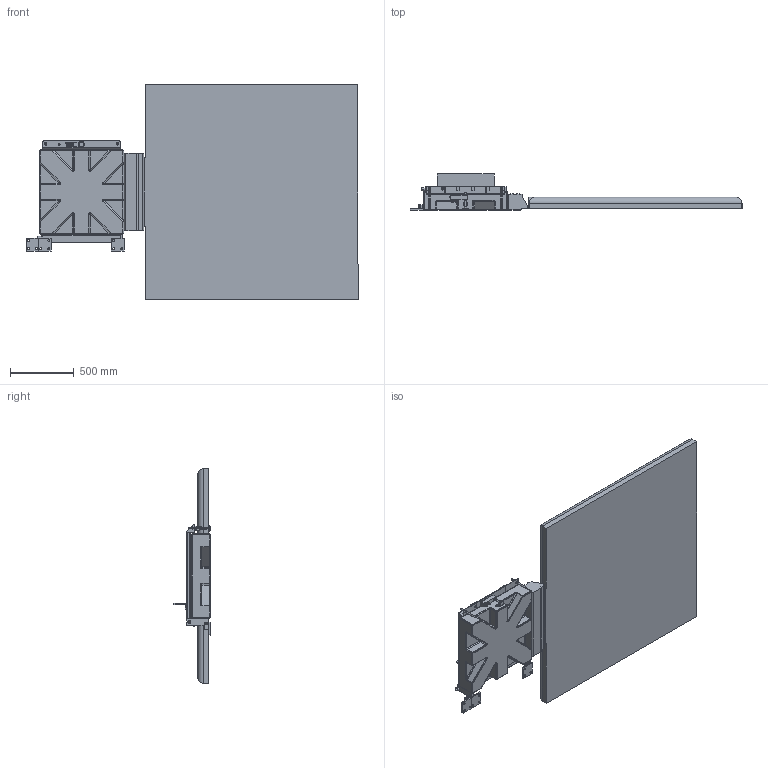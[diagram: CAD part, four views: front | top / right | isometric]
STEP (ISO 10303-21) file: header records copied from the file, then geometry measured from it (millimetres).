
FILE_DESCRIPTION (( 'STEP AP203' ), '1' );
FILE_NAME ('4042ECOWB-26.STEP', '2021-08-09T15:20:10', ( '' ), ( '' ), 'SwSTEP 2.0', 'SolidWorks 2019', '' );
FILE_SCHEMA (( 'CONFIG_CONTROL_DESIGN' ));
Length unit declared in the file: inch
Products named in the file (1): 4042ECOWB-26
Bounding box: 2597.21 x 282.57 x 1676.4 mm (x, y, z)
Surface area: 9855277.9 mm2 (no closed solid volume)
Topology: 0 solids, 70 shells, 1051 faces, 3724 edges, 2684 vertices
Faces by surface type: plane 665, cylinder 300, sphere 34, torus 19, cone 18, bspline 15
Entity records: 50798 total; most frequent: CARTESIAN_POINT 19879, DIRECTION 6102, ORIENTED_EDGE 5615, EDGE_CURVE 3694, LINE 2720, VECTOR 2720, VERTEX_POINT 2684, AXIS2_PLACEMENT_3D 1691
